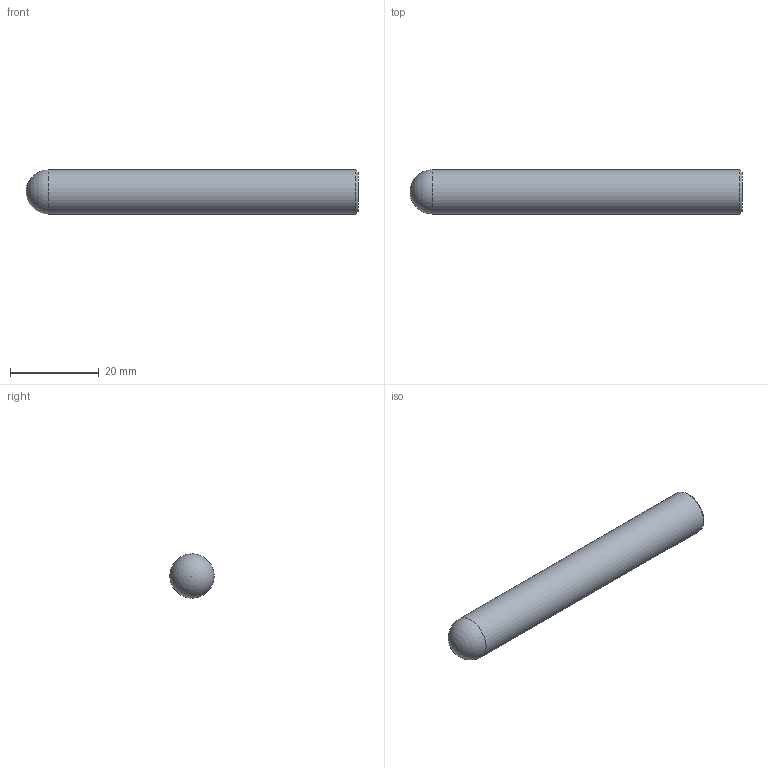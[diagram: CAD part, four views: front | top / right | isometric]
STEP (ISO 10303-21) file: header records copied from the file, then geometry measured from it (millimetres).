
FILE_DESCRIPTION(/* description */ (''),/* implementation_level */ '2;1');
FILE_NAME(/* name */ 'HSXB2100 1075.stp',/* time_stamp */ '2026-08-03T08:45:33+08:00',/* author */ (''),/* organization */ (''),/* preprocessor_version */ 'ST-DEVELOPER v16',/* originating_system */ 'SIEMENS PLM Software NX 10.0',/* authorisation */ '');
FILE_SCHEMA (('CONFIG_CONTROL_DESIGN'));
Length unit declared in the file: millimetre
Products named in the file (1): HSXB2100 1075_dxf
Bounding box: 75 x 10 x 10 mm (x, y, z)
Volume: 5755.8 mm3; surface area: 2425.2 mm2
Topology: 1 solids, 1 shells, 4 faces, 8 edges, 5 vertices
Faces by surface type: plane 1, sphere 1, cylinder 1, cone 1
Full cylindrical faces by diameter (mm): 10 x1
Entity records: 158 total; most frequent: DIRECTION 16, CARTESIAN_POINT 11, AXIS2_PLACEMENT_3D 8, PERSON_AND_ORGANIZATION 7, ORGANIZATION 7, EDGE_LOOP 6, ORIENTED_EDGE 6, DATE_AND_TIME 5
